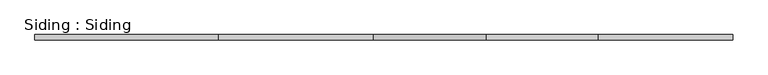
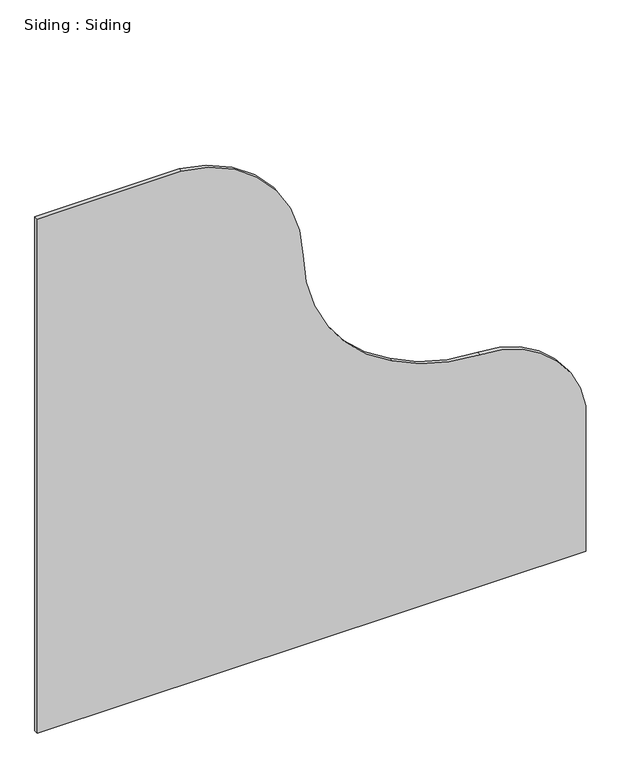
"""IFC4 building model written with IfcOpenShell, lengths in millimetres: proxy geometry, Siding : Siding."""

import ifcopenshell
import ifcopenshell.guid

model = None  # the IFC model being written
_history = None  # IfcOwnerHistory: only IFC2X3 demands one
_inside = {}  # id of a spatial element -> (the spatial element, [elements in it])
_under = {}  # id of a project, library or spatial element -> (it, [spatial elements below it])
_declared = {}  # id of a project -> (the project, [libraries it declares])
_typed = {}  # id of a type object -> (the type object, [elements of that type])
_made_of = {}  # id of a material, layer set ... -> (it, [elements and type objects made of it])


def new_model(schema):
    """Start an empty IFC model of exactly this schema.

    Asked for "IFC4X3", IfcOpenShell would pick the latest addendum, in which some entities
    have other attributes; the version numbers below select the first issue.
    IFC2X3 requires an IfcOwnerHistory on every rooted entity: one is made here for all.
    """
    global model, _history
    if schema == "IFC4X3":
        model = ifcopenshell.file(schema_version=(4, 3, 0, 0))
    else:
        model = ifcopenshell.file(schema=schema)
    _inside.clear()
    _under.clear()
    _declared.clear()
    _typed.clear()
    _made_of.clear()
    _history = None
    if model.schema == "IFC2X3":
        org = make("IfcOrganization", Name="unknown")
        user = make(
            "IfcPersonAndOrganization",
            ThePerson=make("IfcPerson", FamilyName="unknown"),
            TheOrganization=org,
        )
        app = make(
            "IfcApplication",
            ApplicationDeveloper=org,
            Version="unknown",
            ApplicationFullName="unknown",
            ApplicationIdentifier="unknown",
        )
        _history = make(
            "IfcOwnerHistory",
            OwningUser=user,
            OwningApplication=app,
            ChangeAction="ADDED",
            CreationDate=0,
        )
    return model


def make(cls, **values):
    """One entity of the class cls with the attributes given. An attribute that is None is left unset."""
    return model.create_entity(
        cls, **{name: value for name, value in values.items() if value is not None}
    )


def rooted(cls, **values):
    """An entity with a GlobalId (a new one), such as an element, a storey or a relation."""
    return make(cls, GlobalId=ifcopenshell.guid.new(), OwnerHistory=_history, **values)


def si_unit(unit_type, name, prefix=None):
    """IfcSIUnit, for example si_unit("LENGTHUNIT", "METRE", prefix="MILLI")."""
    return make("IfcSIUnit", UnitType=unit_type, Prefix=prefix, Name=name)


def assignment(units):
    """IfcUnitAssignment: the units of a project."""
    return None if units is None else make("IfcUnitAssignment", Units=units)


def point(xyz):
    """IfcCartesianPoint."""
    return None if xyz is None else make("IfcCartesianPoint", Coordinates=xyz)


def direction(xyz):
    """IfcDirection."""
    return None if xyz is None else make("IfcDirection", DirectionRatios=xyz)


def frame(location, z_axis=None, x_axis=None):
    """IfcAxis2Placement3D, a coordinate frame: its origin and axes. An axis left out is left unset."""
    return make(
        "IfcAxis2Placement3D",
        Location=point(location),
        Axis=direction(z_axis),
        RefDirection=direction(x_axis),
    )


def frame_2d(location, x_axis=None):
    """IfcAxis2Placement2D, a coordinate frame in the plane: its origin and x axis."""
    return make(
        "IfcAxis2Placement2D", Location=point(location), RefDirection=direction(x_axis)
    )


def origin():
    """The frame at (0, 0, 0) with its axes left unset."""
    return frame((0.0, 0.0, 0.0))


def place(relative_to, where):
    """IfcLocalPlacement: puts the frame where relative to a parent placement (None: the world)."""
    return make(
        "IfcLocalPlacement", PlacementRelTo=relative_to, RelativePlacement=where
    )


def context(
    kind, dimensions, precision=None, world=None, true_north=None, identifier=None
):
    """IfcGeometricRepresentationContext, for example the 3D "Model" context."""
    return make(
        "IfcGeometricRepresentationContext",
        ContextIdentifier=identifier,
        ContextType=kind,
        CoordinateSpaceDimension=dimensions,
        Precision=precision,
        WorldCoordinateSystem=world,
        TrueNorth=true_north,
    )


def project(units=None, contexts=None):
    """IfcProject with its units and contexts."""
    return rooted(
        "IfcProject",
        Name="project",
        RepresentationContexts=contexts,
        UnitsInContext=assignment(units),
    )


def spatial(cls, under=None, at=None, **own):
    """A site, building, storey or space (cls), placed at a placement, below another one or the project."""
    s = rooted(cls, ObjectPlacement=at, **own)
    if under is not None:
        _under.setdefault(under.id(), (under, []))[1].append(s)
    return s


def polyline(points):
    """IfcPolyline through the points."""
    return make("IfcPolyline", Points=[point(p) for p in points])


def circle_curve(where, radius):
    """IfcCircle in the frame where."""
    return make("IfcCircle", Position=where, Radius=radius)


def trimmed(basis, trim1, trim2, sense, master):
    """IfcTrimmedCurve: the piece of a basis curve between two trims."""
    return make(
        "IfcTrimmedCurve",
        BasisCurve=basis,
        Trim1=trim1,
        Trim2=trim2,
        SenseAgreement=sense,
        MasterRepresentation=master,
    )


def segment(curve, same_sense, transition):
    """IfcCompositeCurveSegment."""
    return make(
        "IfcCompositeCurveSegment",
        Transition=transition,
        SameSense=same_sense,
        ParentCurve=curve,
    )


def composite_curve(segments, self_intersect=None):
    """IfcCompositeCurve: segments joined end to end."""
    return make("IfcCompositeCurve", Segments=segments, SelfIntersect=self_intersect)


def outline(outer, holes=None, kind="AREA"):
    """IfcArbitraryClosedProfileDef: a profile drawn as a closed curve; with holes, ...WithVoids."""
    if holes is None:
        return make("IfcArbitraryClosedProfileDef", ProfileType=kind, OuterCurve=outer)
    return make(
        "IfcArbitraryProfileDefWithVoids",
        ProfileType=kind,
        OuterCurve=outer,
        InnerCurves=holes,
    )


def extrude(swept, where, along, depth):
    """IfcExtrudedAreaSolid: the profile swept, set in the frame where, extruded along a direction by depth."""
    return make(
        "IfcExtrudedAreaSolid",
        SweptArea=swept,
        Position=where,
        ExtrudedDirection=direction(along),
        Depth=depth,
    )


def shape(context_of_items, identifier, shape_type, items):
    """IfcShapeRepresentation: the items that make up one representation, for example the "Body"."""
    return make(
        "IfcShapeRepresentation",
        ContextOfItems=context_of_items,
        RepresentationIdentifier=identifier,
        RepresentationType=shape_type,
        Items=items,
    )


def source(mapping_origin, context_of_items, identifier, shape_type, items):
    """IfcRepresentationMap: a shape defined once, which mapped items show again and again."""
    return make(
        "IfcRepresentationMap",
        MappingOrigin=mapping_origin,
        MappedRepresentation=shape(context_of_items, identifier, shape_type, items),
    )


def transform(
    local_origin,
    x_axis=None,
    y_axis=None,
    z_axis=None,
    scale=None,
    scale2=None,
    scale3=None,
    uniform=True,
):
    """IfcCartesianTransformationOperator3D, or its non-uniform kind. x_axis, y_axis, z_axis: its Axis1, 2, 3."""
    if uniform:
        return make(
            "IfcCartesianTransformationOperator3D",
            Axis1=direction(x_axis),
            Axis2=direction(y_axis),
            LocalOrigin=point(local_origin),
            Scale=scale,
            Axis3=direction(z_axis),
        )
    return make(
        "IfcCartesianTransformationOperator3DnonUniform",
        Axis1=direction(x_axis),
        Axis2=direction(y_axis),
        LocalOrigin=point(local_origin),
        Scale=scale,
        Axis3=direction(z_axis),
        Scale2=scale2,
        Scale3=scale3,
    )


def mapped(mapping_source, mapping_target):
    """IfcMappedItem: shows the shape of a source again, moved by a transform."""
    return make(
        "IfcMappedItem", MappingSource=mapping_source, MappingTarget=mapping_target
    )


def made_of(thing, what):
    """Note that an element or type object is made of a material, layer set ...; save() writes the relation."""
    if what is not None:
        _made_of.setdefault(what.id(), (what, []))[1].append(thing)
    return thing


def element(
    cls,
    number,
    at=None,
    inside=None,
    cuts=None,
    type_object=None,
    material=None,
    context=None,
    identifier="Body",
    shape_type=None,
    held_by="IfcProductDefinitionShape",
    body=None,
    shapes=None,
    **own,
):
    """One element of the class cls, such as IfcWall. Its Tag is "e" and its number.

    at: its placement. inside: the storey or other place that contains it. cuts: it is an
    opening in that element (IfcRelVoidsElement). A single representation is given by context,
    identifier, shape_type and body (its items); several are given by shapes. held_by: the class
    of the entity that holds the representations. save() writes the other relations.
    """
    e = rooted(cls, Tag="e%d" % number, ObjectPlacement=at, **own)
    if body is not None:
        shapes = [shape(context, identifier, shape_type, body)]
    if shapes is not None:
        e.Representation = make(held_by, Representations=shapes)
    if inside is not None:
        _inside.setdefault(inside.id(), (inside, []))[1].append(e)
    if cuts is not None:
        rooted(
            "IfcRelVoidsElement", RelatingBuildingElement=cuts, RelatedOpeningElement=e
        )
    if type_object is not None:
        _typed.setdefault(type_object.id(), (type_object, []))[1].append(e)
    return made_of(e, material)


def aggregate(whole, parts):
    """IfcRelAggregates: a whole, such as a stair, and the parts it consists of."""
    return rooted("IfcRelAggregates", RelatingObject=whole, RelatedObjects=parts)


def save(model, path):
    """Write the relations noted so far, then the file.

    IfcRelAggregates (storeys below a building ...), IfcRelContainedInSpatialStructure (elements
    in a storey), IfcRelDefinesByType, IfcRelAssociatesMaterial and IfcRelDeclares: one each for
    every whole, place, type object, material and project.
    """
    for whole, parts in _under.values():
        aggregate(whole, parts)
    for where, things in _inside.values():
        rooted(
            "IfcRelContainedInSpatialStructure",
            RelatedElements=things,
            RelatingStructure=where,
        )
    for kind, things in _typed.values():
        rooted("IfcRelDefinesByType", RelatedObjects=things, RelatingType=kind)
    for what, things in _made_of.values():
        rooted("IfcRelAssociatesMaterial", RelatedObjects=things, RelatingMaterial=what)
    for by, libraries in _declared.values():
        rooted("IfcRelDeclares", RelatingContext=by, RelatedDefinitions=libraries)
    model.write(path)


def siding_siding_018b6af7(model_context):
    return source(origin(), model_context, "Body", "SweptSolid", [
        extrude(outline(composite_curve([segment(polyline([(-25.4, -3843.1179718), (326.9760682, -3843.1179718)]), True, "CONTINUOUS"), segment(trimmed(circle_curve(frame_2d((286.9857554, -4088.4282857)), 248.5485369), [point((326.9760682, -3843.1179718))], [point((535.510358, -4084.9790677))], False, "CARTESIAN"), True, "CONTINUOUS"), segment(trimmed(circle_curve(frame_2d((948.5891228, -4079.2460388)), 413.1185466), [point((535.510358, -4084.9790677))], [point((591.8706469, -4287.6179718))], True, "CARTESIAN"), True, "CONTINUOUS"), segment(trimmed(circle_curve(frame_2d((925.1337293, -4116.855762)), 374.4649709), [point((591.8706469, -4287.6179718))], [point((918.4023164, -4491.2602258))], True, "CARTESIAN"), True, "CONTINUOUS"), segment(trimmed(circle_curve(frame_2d((912.871688, -4798.8764748)), 307.6659626), [point((918.4023164, -4491.2602258))], [point((1219.2, -4770.2179718))], False, "CARTESIAN"), True, "CONTINUOUS"), segment(polyline([(1219.2, -4770.2179718), (1219.2, -5100.4179718), (-25.4, -5100.4179718), (-25.4, -3843.1179718)]), True, "CONTINUOUS")], self_intersect=False)), frame((0.0, 33648.8119189, 0.0), z_axis=(0.0, 1.0, 0.0), x_axis=(0.0, 0.0, 1.0)), (0.0, 0.0, 1.0), 9.525),
    ])


if __name__ == "__main__":
    model = new_model("IFC4")
    model_context = context("Model", 3, world=origin())
    ifc_project = project(units=[si_unit("LENGTHUNIT", "METRE", prefix="MILLI")], contexts=[model_context])
    site = spatial("IfcSite", under=ifc_project)
    building = spatial("IfcBuilding", under=site)
    placement = place(None, origin())
    siding_siding_shape = siding_siding_018b6af7(model_context)
    element("IfcBuildingElementProxy", 1, Name="Siding : Siding", ObjectType="Siding : Siding", at=placement, inside=building, context=model_context, shape_type="MappedRepresentation", body=[
        mapped(siding_siding_shape, transform((0.0, 0.0, 0.0), x_axis=(1.0, 0.0, 0.0), y_axis=(0.0, 1.0, 0.0), z_axis=(0.0, 0.0, 1.0))),
    ])
    save(model, "model.ifc")
